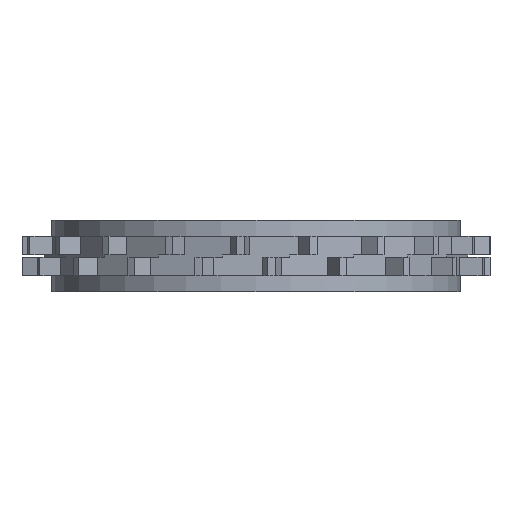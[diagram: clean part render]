
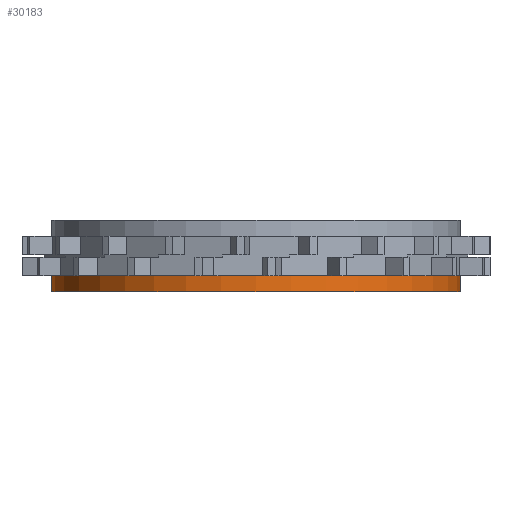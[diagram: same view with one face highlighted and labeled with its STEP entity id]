
A CAD part, left-side view. The second image highlights one B-rep face of the part: STEP entity #30183.
In plain terms, the highlighted cylindrical face has radius 71.111 mm (diameter 142.223 mm), a partial arc.
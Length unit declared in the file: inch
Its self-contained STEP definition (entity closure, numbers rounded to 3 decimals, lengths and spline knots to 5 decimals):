
#10420=CARTESIAN_POINT('',(0.,0.,-0.2675));
#10421=DIRECTION('',(0.,0.,1.));
#10422=DIRECTION('',(0.,1.,0.));
#10423=AXIS2_PLACEMENT_3D('',#10420,#10421,#10422);
#10425=DIRECTION('',(0.,0.,1.));
#10426=VECTOR('',#10425,0.2225);
#10427=CARTESIAN_POINT('',(-0.001,-2.79966,-0.49));
#10428=LINE('',#10427,#10426);
#10429=CARTESIAN_POINT('',(0.,0.,-0.49));
#10430=DIRECTION('',(0.,0.,-1.));
#10431=DIRECTION('',(0.,-1.,0.));
#10432=AXIS2_PLACEMENT_3D('',#10429,#10430,#10431);
#10434=DIRECTION('',(0.,0.,1.));
#10435=VECTOR('',#10434,0.2225);
#10436=CARTESIAN_POINT('',(-0.001,2.79966,-0.49));
#10437=LINE('',#10436,#10435);
#11873=CARTESIAN_POINT('',(-0.001,2.79966,-0.2675));
#11874=VERTEX_POINT('',#11873);
#11875=CARTESIAN_POINT('',(-0.001,-2.79966,-0.2675));
#11876=VERTEX_POINT('',#11875);
#11877=CARTESIAN_POINT('',(-0.001,2.79966,-0.49));
#11878=VERTEX_POINT('',#11877);
#11879=CARTESIAN_POINT('',(-0.001,-2.79966,-0.49));
#11880=VERTEX_POINT('',#11879);
#30171=CARTESIAN_POINT('',(0.,0.,-0.49));
#30172=DIRECTION('',(0.,0.,1.));
#30173=DIRECTION('',(1.,0.,0.));
#30174=AXIS2_PLACEMENT_3D('',#30171,#30172,#30173);
#30175=CYLINDRICAL_SURFACE('',#30174,2.79966);
#30177=ORIENTED_EDGE('',*,*,#30176,.T.);
#30178=ORIENTED_EDGE('',*,*,#15673,.F.);
#30179=ORIENTED_EDGE('',*,*,#16287,.T.);
#30180=ORIENTED_EDGE('',*,*,#15649,.T.);
#30181=EDGE_LOOP('',(#30177,#30178,#30179,#30180));
#30182=FACE_OUTER_BOUND('',#30181,.F.);
#30183=ADVANCED_FACE('',(#30182),#30175,.T.);
#10424=CIRCLE('',#10423,2.79966);
#10433=CIRCLE('',#10432,2.79966);
#15649=EDGE_CURVE('',#11878,#11874,#10437,.T.);
#15673=EDGE_CURVE('',#11880,#11876,#10428,.T.);
#16287=EDGE_CURVE('',#11880,#11878,#10433,.T.);
#30176=EDGE_CURVE('',#11874,#11876,#10424,.T.);
